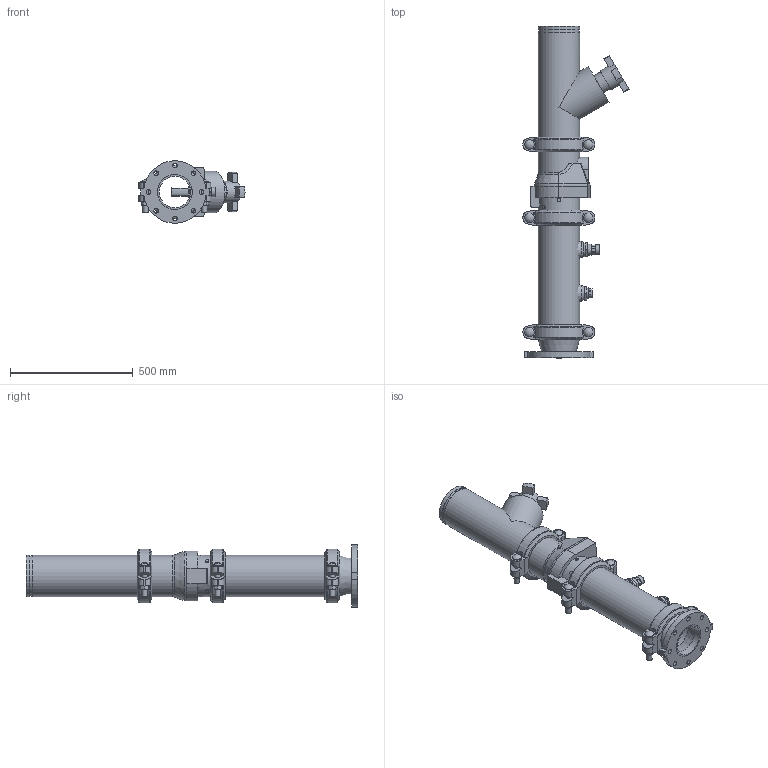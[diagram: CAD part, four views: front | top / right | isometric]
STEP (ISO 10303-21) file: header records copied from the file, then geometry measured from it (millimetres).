
FILE_DESCRIPTION(/* description */ ('VIC DVI PUMP DROP VERT S/383 (OGSxFLG) (S/924-0.75)','CAx-IF Rec.Pracs.---Representation and Presentation of Product Manufacturing Information (PMI)---4.0---2014-10-13'),/* implementation_level */ '2;1');
FILE_NAME(/* name */ 'C:\Users\Public\Documents\Victaulic.Temp\A849\Victaulic_IPS_Vertical DVI_CL 150_Series 383 (OGSxFLG)_924 (0.75)_06.0x05.0 (150x125).stp',/* time_stamp */ '2022-07-25T11:40:44+02:00',/* author */ ('Vjadhav'),/* organization */ ('Victaulic'),/* preprocessor_version */ 'ST-DEVELOPER v18',/* originating_system */ 'Autodesk Inventor 2020',/* authorisation */ '');
FILE_SCHEMA (('AP242_MANAGED_MODEL_BASED_3D_ENGINEERING_MIM_LF { 1 0 10303 442 1 1 4 }'));
Length unit declared in the file: inch
Products named in the file (9): 383_924 (0.75)-06.0x05.0; 741-05.0; 050-06.0x05.0; Pipe-06.0x04.0; 177N-06.0; 789-06.0; 779-06.0; 924-04.0x0.75; 923-04.0x0.75
Assembly tree (10 placements, depth 2):
  383_924 (0.75)-06.0x05.0
    741-05.0
    050-06.0x05.0
    177N-06.0  x3
    Pipe-06.0x04.0
    789-06.0
    779-06.0
    924-04.0x0.75
    923-04.0x0.75
Bounding box: 432.05 x 1352.55 x 253.05 mm (x, y, z)
Volume: 14529442.6 mm3; surface area: 2196632.7 mm2
Topology: 10 solids, 10 shells, 534 faces, 1415 edges, 950 vertices
Faces by surface type: plane 310, cylinder 179, cone 19, torus 18, sphere 6, bspline 2
Full cylindrical faces by diameter (mm): 13.716 x4, 19.05 x8, 21.209 x6, 26.67 x2, 37.694 x6, 38.608 x1, 45.974 x4, 55.626 x2, 79.375 x1, 88.9 x1, 128.194 x1, 137.033 x1, 141.3 x3, 154.051 x4, 155.575 x3, 163.957 x7, 168.275 x19
Entity records: 12228 total; most frequent: CARTESIAN_POINT 2506, DIRECTION 2010, ORIENTED_EDGE 1810, EDGE_CURVE 905, AXIS2_PLACEMENT_3D 770, VERTEX_POINT 614, LINE 470, VECTOR 470
